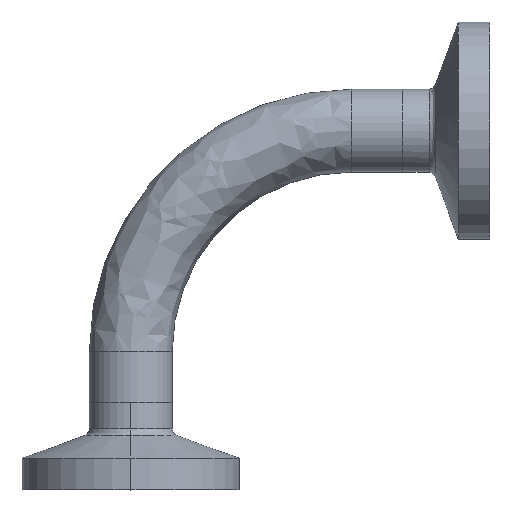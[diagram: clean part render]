
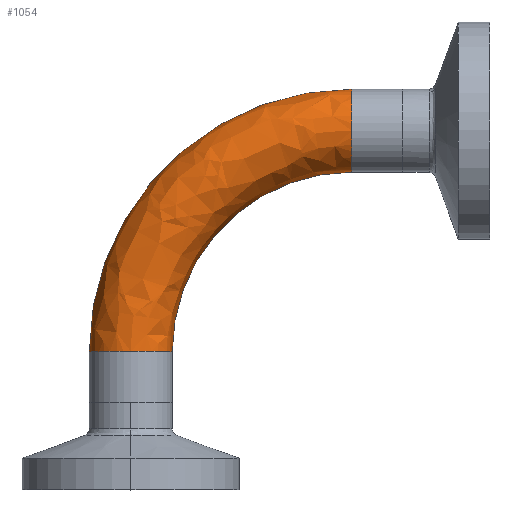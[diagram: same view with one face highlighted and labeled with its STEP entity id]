
A CAD part, top view. The second image highlights one B-rep face of the part: STEP entity #1054.
In plain terms, the highlighted free-form (B-spline) face has degree [3, 3] with [4, 4] control points.
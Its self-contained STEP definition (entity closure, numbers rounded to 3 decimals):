
#9 = AXIS2_PLACEMENT_3D ( 'NONE', #474, #950, #32 ) ;
#32 = DIRECTION ( 'NONE',  ( -1., 0., 0. ) ) ;
#41 = EDGE_CURVE ( 'NONE', #794, #1736, #1439, .T. ) ;
#46 = DIRECTION ( 'NONE',  ( 0., 1., 0. ) ) ;
#50 = CARTESIAN_POINT ( 'NONE',  ( 4.765, 5.9, 0. ) ) ;
#68 = AXIS2_PLACEMENT_3D ( 'NONE', #962, #46, #1131 ) ;
#72 = CARTESIAN_POINT ( 'NONE',  ( 25.4, 26.535, 9.53 ) ) ;
#84 = CARTESIAN_POINT ( 'NONE',  ( 13.312, 26.535, 9.53 ) ) ;
#93 = CARTESIAN_POINT ( 'NONE',  ( 4.765, 17.988, 9.53 ) ) ;
#117 = DIRECTION ( 'NONE',  ( 0., 0., -1. ) ) ;
#121 = CARTESIAN_POINT ( 'NONE',  ( 4.765, 5.9, 9.53 ) ) ;
#134 = CARTESIAN_POINT ( 'NONE',  ( 25.4, 36.065, 9.53 ) ) ;
#170 = EDGE_CURVE ( 'NONE', #1323, #794, #2008, .T. ) ;
#187 = CIRCLE ( 'NONE', #1550, 4.765 ) ;
#205 = CARTESIAN_POINT ( 'NONE',  ( 7.73, 36.065, 9.53 ) ) ;
#215 = CARTESIAN_POINT ( 'NONE',  ( -4.765, 23.57, 9.53 ) ) ;
#241 = CARTESIAN_POINT ( 'NONE',  ( -4.765, 5.9, 9.53 ) ) ;
#289 = CARTESIAN_POINT ( 'NONE',  ( 25.4, 36.065, 0. ) ) ;
#367 = CARTESIAN_POINT ( 'NONE',  ( -4.765, 5.9, 0. ) ) ;
#474 = CARTESIAN_POINT ( 'NONE',  ( 25.4, 5.9, 0. ) ) ;
#486 = ORIENTED_EDGE ( 'NONE', *, *, #1199, .F. ) ;
#579 = CIRCLE ( 'NONE', #646, 30.165 ) ;
#589 = CARTESIAN_POINT ( 'NONE',  ( -4.765, 5.9, 0. ) ) ;
#643 = DIRECTION ( 'NONE',  ( -1., 0., 0. ) ) ;
#646 = AXIS2_PLACEMENT_3D ( 'NONE', #1200, #117, #1529 ) ;
#647 = CARTESIAN_POINT ( 'NONE',  ( 25.4, 31.3, 0. ) ) ;
#711 = CARTESIAN_POINT ( 'NONE',  ( -4.765, 23.57, 0. ) ) ;
#754 = VERTEX_POINT ( 'NONE', #1327 ) ;
#768 = FACE_OUTER_BOUND ( 'NONE', #795, .T. ) ;
#774 = EDGE_CURVE ( 'NONE', #1736, #754, #187, .T. ) ;
#788 = ORIENTED_EDGE ( 'NONE', *, *, #41, .T. ) ;
#794 = VERTEX_POINT ( 'NONE', #856 ) ;
#795 = EDGE_LOOP ( 'NONE', ( #1668, #788, #834, #486 ) ) ;
#834 = ORIENTED_EDGE ( 'NONE', *, *, #774, .T. ) ;
#851 = CARTESIAN_POINT ( 'NONE',  ( 25.4, 26.535, 0. ) ) ;
#856 = CARTESIAN_POINT ( 'NONE',  ( 4.765, 5.9, 0. ) ) ;
#871 = CARTESIAN_POINT ( 'NONE',  ( 13.312, 26.535, 0. ) ) ;
#950 = DIRECTION ( 'NONE',  ( 0., 0., -1. ) ) ;
#962 = CARTESIAN_POINT ( 'NONE',  ( 0., 5.9, 0. ) ) ;
#1054 = ADVANCED_FACE ( 'NONE', ( #768 ), #1304, .T. ) ;
#1130 = DIRECTION ( 'NONE',  ( 0., 1., 0. ) ) ;
#1131 = DIRECTION ( 'NONE',  ( -1., 0., 0. ) ) ;
#1199 = EDGE_CURVE ( 'NONE', #1323, #754, #579, .T. ) ;
#1200 = CARTESIAN_POINT ( 'NONE',  ( 25.4, 5.9, 0. ) ) ;
#1304 =( BOUNDED_SURFACE ( )  B_SPLINE_SURFACE ( 3, 3, ( 
 ( #367, #711, #1718, #289 ),
 ( #241, #215, #205, #134 ),
 ( #121, #93, #84, #72 ),
 ( #50, #1363, #871, #851 ) ),
 .UNSPECIFIED., .F., .F., .F. ) 
 B_SPLINE_SURFACE_WITH_KNOTS ( ( 4, 4 ),
 ( 4, 4 ),
 ( 0., 1. ),
 ( 0., 1. ),
 .UNSPECIFIED. ) 
 GEOMETRIC_REPRESENTATION_ITEM ( )  RATIONAL_B_SPLINE_SURFACE ( (
 ( 1., 0.805, 0.805, 1.),
 ( 0.333, 0.268, 0.268, 0.333),
 ( 0.333, 0.268, 0.268, 0.333),
 ( 1., 0.805, 0.805, 1.) ) ) 
 REPRESENTATION_ITEM ( '' )  SURFACE ( )  );
#1323 = VERTEX_POINT ( 'NONE', #589 ) ;
#1327 = CARTESIAN_POINT ( 'NONE',  ( 25.4, 36.065, 0. ) ) ;
#1363 = CARTESIAN_POINT ( 'NONE',  ( 4.765, 17.988, 0. ) ) ;
#1428 = CARTESIAN_POINT ( 'NONE',  ( 25.4, 26.535, 0. ) ) ;
#1439 = CIRCLE ( 'NONE', #9, 20.635 ) ;
#1529 = DIRECTION ( 'NONE',  ( -1., 0., 0. ) ) ;
#1550 = AXIS2_PLACEMENT_3D ( 'NONE', #647, #643, #1130 ) ;
#1668 = ORIENTED_EDGE ( 'NONE', *, *, #170, .T. ) ;
#1718 = CARTESIAN_POINT ( 'NONE',  ( 7.73, 36.065, 0. ) ) ;
#1736 = VERTEX_POINT ( 'NONE', #1428 ) ;
#2008 = CIRCLE ( 'NONE', #68, 4.765 ) ;
